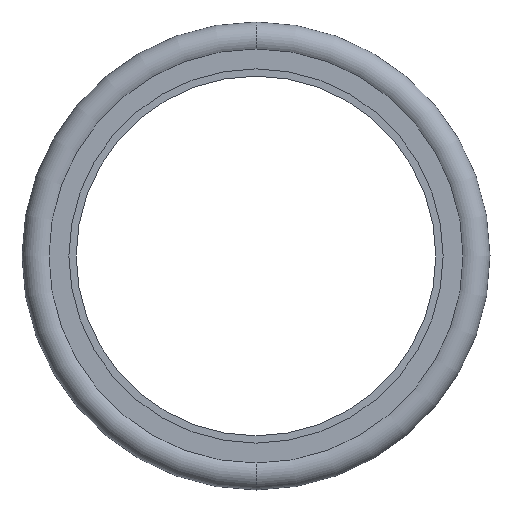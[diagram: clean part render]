
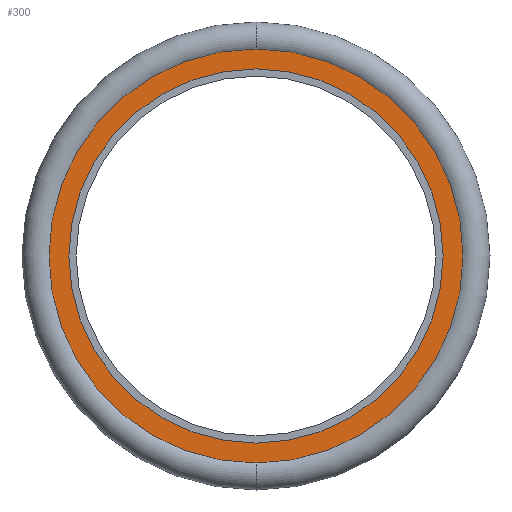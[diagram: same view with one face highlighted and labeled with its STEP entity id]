
A CAD part, front view. The second image highlights one B-rep face of the part: STEP entity #300.
In plain terms, the highlighted planar face has unit normal (0, -1, 0).
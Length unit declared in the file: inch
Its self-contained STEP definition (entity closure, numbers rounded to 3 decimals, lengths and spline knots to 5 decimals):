
#109=PLANE('',#474);
#133=VERTEX_POINT('',#393);
#134=VERTEX_POINT('',#394);
#141=VERTEX_POINT('',#416);
#142=VERTEX_POINT('',#418);
#151=CIRCLE('',#449,1.13277);
#158=CIRCLE('',#459,1.13277);
#160=CIRCLE('',#462,1.0235);
#167=CIRCLE('',#475,1.0235);
#173=EDGE_CURVE('',#133,#134,#151,.T.);
#182=EDGE_CURVE('',#134,#133,#158,.T.);
#185=EDGE_CURVE('',#142,#141,#160,.T.);
#195=EDGE_CURVE('',#141,#142,#167,.T.);
#241=ORIENTED_EDGE('',*,*,#182,.F.);
#242=ORIENTED_EDGE('',*,*,#173,.F.);
#243=ORIENTED_EDGE('',*,*,#185,.T.);
#244=ORIENTED_EDGE('',*,*,#195,.T.);
#266=EDGE_LOOP('',(#241,#242));
#267=EDGE_LOOP('',(#243,#244));
#284=FACE_BOUND('',#266,.T.);
#285=FACE_BOUND('',#267,.T.);
#300=ADVANCED_FACE('',(#284,#285),#109,.T.);
#321=DIRECTION('',(0.,1.,0.));
#322=DIRECTION('',(0.,0.,-1.133));
#341=DIRECTION('',(0.,1.,0.));
#342=DIRECTION('',(0.,0.,-1.133));
#348=DIRECTION('',(0.,1.,0.));
#349=DIRECTION('',(-1.024,0.,0.));
#373=DIRECTION('',(0.,-1.,0.));
#374=DIRECTION('',(0.,1.,0.));
#375=DIRECTION('',(-1.024,0.,0.));
#392=CARTESIAN_POINT('',(0.,-0.077,0.));
#393=CARTESIAN_POINT('',(0.,-0.077,-1.13277));
#394=CARTESIAN_POINT('',(0.,-0.077,1.13277));
#410=CARTESIAN_POINT('',(0.,-0.077,0.));
#416=CARTESIAN_POINT('',(1.0235,-0.077,0.));
#417=CARTESIAN_POINT('',(0.,-0.077,0.));
#418=CARTESIAN_POINT('',(-1.0235,-0.077,0.));
#437=CARTESIAN_POINT('',(-1.0235,-0.077,0.));
#438=CARTESIAN_POINT('',(0.,-0.077,0.));
#449=AXIS2_PLACEMENT_3D('',#392,#321,#322);
#459=AXIS2_PLACEMENT_3D('',#410,#341,#342);
#462=AXIS2_PLACEMENT_3D('',#417,#348,#349);
#474=AXIS2_PLACEMENT_3D('',#437,#373,$);
#475=AXIS2_PLACEMENT_3D('',#438,#374,#375);
